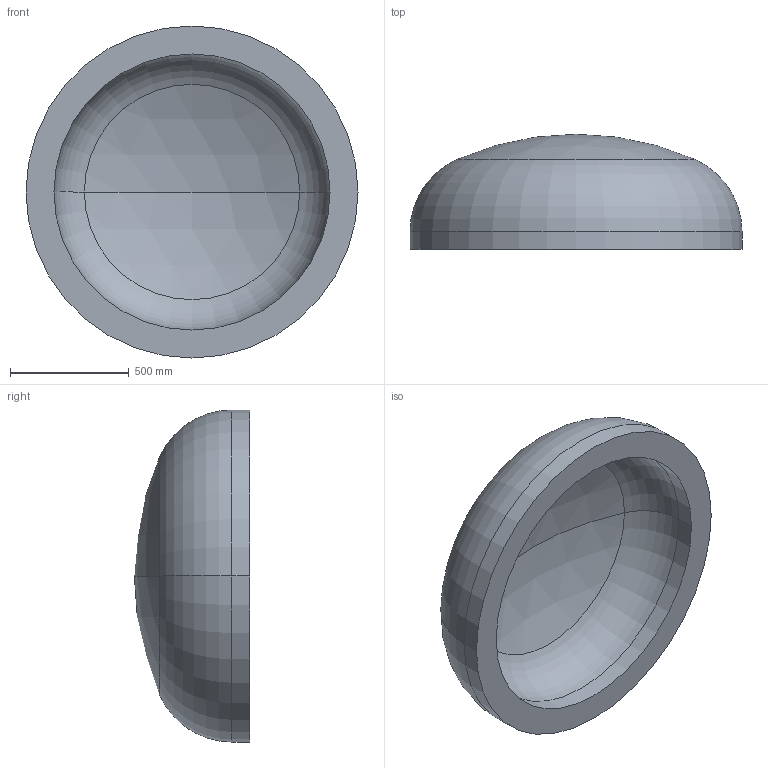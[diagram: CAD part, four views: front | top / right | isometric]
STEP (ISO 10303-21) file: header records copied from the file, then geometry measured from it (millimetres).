
FILE_DESCRIPTION (( 'STEP AP203' ), '1' );
FILE_NAME ('DIN 28013 Korbbogenform_-_Boden DIN 28013 - 1400 x 75 - I - s=118.step', '2016-07-01T10:32:09', ( '' ), ( '' ), 'SwSTEP 2.0', 'SolidWorks 2013', '' );
FILE_SCHEMA (( 'CONFIG_CONTROL_DESIGN' ));
Length unit declared in the file: millimetre
Products named in the file (1): DIN 28013 Korbbogenform_-_Boden DIN 28013 - 1400 x 75 - I - s=118
Bounding box: 1400 x 485.75 x 1400 mm (x, y, z)
Volume: 261909319.7 mm3; surface area: 4943550.1 mm2
Topology: 1 solids, 1 shells, 13 faces, 24 edges, 14 vertices
Faces by surface type: torus 4, cylinder 4, sphere 4, plane 1
Entity records: 407 total; most frequent: DIRECTION 72, CARTESIAN_POINT 52, ORIENTED_EDGE 48, AXIS2_PLACEMENT_3D 34, EDGE_CURVE 24, CIRCLE 20, EDGE_LOOP 14, VERTEX_POINT 14
